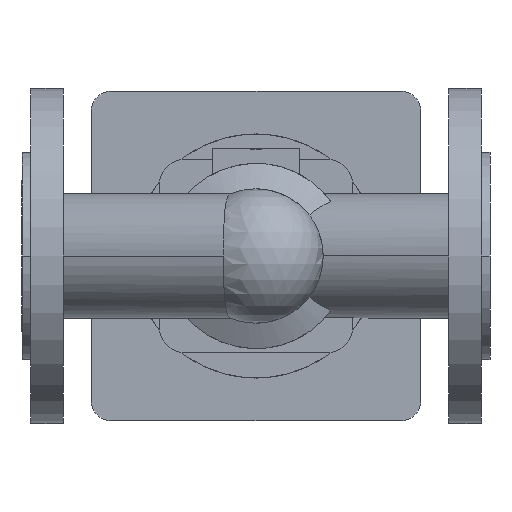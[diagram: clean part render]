
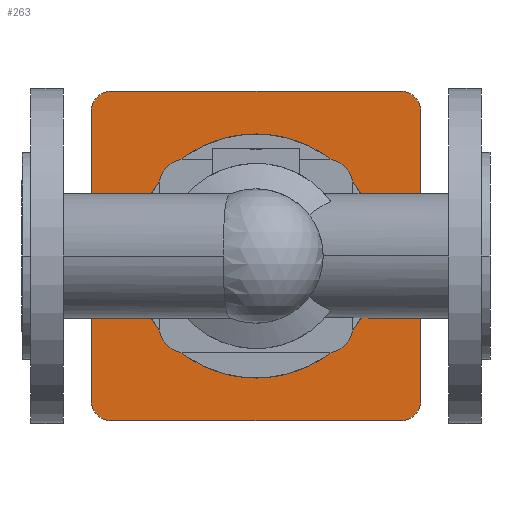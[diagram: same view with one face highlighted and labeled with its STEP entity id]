
A CAD part, front view. The second image highlights one B-rep face of the part: STEP entity #263.
In plain terms, the highlighted planar face has unit normal (0, -1, 0).
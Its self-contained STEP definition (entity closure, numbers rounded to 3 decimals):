
#263 = ADVANCED_FACE( '', ( #603, #604 ), #605, .F. );
#603 = FACE_OUTER_BOUND( '', #969, .T. );
#604 = FACE_BOUND( '', #970, .T. );
#605 = PLANE( '', #971 );
#969 = EDGE_LOOP( '', ( #2116, #2117, #2118, #2119, #2120, #2121, #2122, #2123 ) );
#970 = EDGE_LOOP( '', ( #2124, #2125 ) );
#971 = AXIS2_PLACEMENT_3D( '', #2126, #2127, #2128 );
#2116 = ORIENTED_EDGE( '', *, *, #2645, .F. );
#2117 = ORIENTED_EDGE( '', *, *, #2646, .F. );
#2118 = ORIENTED_EDGE( '', *, *, #2647, .F. );
#2119 = ORIENTED_EDGE( '', *, *, #2648, .F. );
#2120 = ORIENTED_EDGE( '', *, *, #2649, .F. );
#2121 = ORIENTED_EDGE( '', *, *, #2650, .F. );
#2122 = ORIENTED_EDGE( '', *, *, #2651, .F. );
#2123 = ORIENTED_EDGE( '', *, *, #2652, .F. );
#2124 = ORIENTED_EDGE( '', *, *, #2560, .F. );
#2125 = ORIENTED_EDGE( '', *, *, #2653, .F. );
#2126 = CARTESIAN_POINT( '', ( 115., 419., 0. ) );
#2127 = DIRECTION( '', ( 0., 1., 0. ) );
#2128 = DIRECTION( '', ( 0., 0., 1. ) );
#2560 = EDGE_CURVE( '', #3135, #3138, #3139, .T. );
#2645 = EDGE_CURVE( '', #3282, #3283, #3284, .T. );
#2646 = EDGE_CURVE( '', #3285, #3282, #3286, .T. );
#2647 = EDGE_CURVE( '', #3287, #3285, #3288, .T. );
#2648 = EDGE_CURVE( '', #3289, #3287, #3290, .T. );
#2649 = EDGE_CURVE( '', #3291, #3289, #3292, .T. );
#2650 = EDGE_CURVE( '', #3293, #3291, #3294, .T. );
#2651 = EDGE_CURVE( '', #3295, #3293, #3296, .T. );
#2652 = EDGE_CURVE( '', #3283, #3295, #3297, .T. );
#2653 = EDGE_CURVE( '', #3138, #3135, #3298, .T. );
#3135 = VERTEX_POINT( '', #4408 );
#3138 = VERTEX_POINT( '', #4412 );
#3139 = CIRCLE( '', #4413, 40. );
#3282 = VERTEX_POINT( '', #4611 );
#3283 = VERTEX_POINT( '', #4612 );
#3284 = CIRCLE( '', #4613, 10. );
#3285 = VERTEX_POINT( '', #4614 );
#3286 = LINE( '', #4615, #4616 );
#3287 = VERTEX_POINT( '', #4617 );
#3288 = CIRCLE( '', #4618, 10. );
#3289 = VERTEX_POINT( '', #4619 );
#3290 = LINE( '', #4620, #4621 );
#3291 = VERTEX_POINT( '', #4622 );
#3292 = CIRCLE( '', #4623, 10. );
#3293 = VERTEX_POINT( '', #4624 );
#3294 = LINE( '', #4625, #4626 );
#3295 = VERTEX_POINT( '', #4627 );
#3296 = CIRCLE( '', #4628, 10. );
#3297 = LINE( '', #4629, #4630 );
#3298 = CIRCLE( '', #4631, 40. );
#4408 = CARTESIAN_POINT( '', ( 75., 419., 0. ) );
#4412 = CARTESIAN_POINT( '', ( 155., 419., 0. ) );
#4413 = AXIS2_PLACEMENT_3D( '', #5186, #5187, #5188 );
#4611 = CARTESIAN_POINT( '', ( 34., 419., 71. ) );
#4612 = CARTESIAN_POINT( '', ( 44., 419., 81. ) );
#4613 = AXIS2_PLACEMENT_3D( '', #5331, #5332, #5333 );
#4614 = CARTESIAN_POINT( '', ( 34., 419., -71. ) );
#4615 = CARTESIAN_POINT( '', ( 34., 419., -71. ) );
#4616 = VECTOR( '', #5334, 1. );
#4617 = CARTESIAN_POINT( '', ( 44., 419., -81. ) );
#4618 = AXIS2_PLACEMENT_3D( '', #5335, #5336, #5337 );
#4619 = CARTESIAN_POINT( '', ( 186., 419., -81. ) );
#4620 = CARTESIAN_POINT( '', ( 186., 419., -81. ) );
#4621 = VECTOR( '', #5338, 1. );
#4622 = CARTESIAN_POINT( '', ( 196., 419., -71. ) );
#4623 = AXIS2_PLACEMENT_3D( '', #5339, #5340, #5341 );
#4624 = CARTESIAN_POINT( '', ( 196., 419., 71. ) );
#4625 = CARTESIAN_POINT( '', ( 196., 419., 71. ) );
#4626 = VECTOR( '', #5342, 1. );
#4627 = CARTESIAN_POINT( '', ( 186., 419., 81. ) );
#4628 = AXIS2_PLACEMENT_3D( '', #5343, #5344, #5345 );
#4629 = CARTESIAN_POINT( '', ( 44., 419., 81. ) );
#4630 = VECTOR( '', #5346, 1. );
#4631 = AXIS2_PLACEMENT_3D( '', #5347, #5348, #5349 );
#5186 = CARTESIAN_POINT( '', ( 115., 419., 0. ) );
#5187 = DIRECTION( '', ( 0., -1., 0. ) );
#5188 = DIRECTION( '', ( -1., 0., 0. ) );
#5331 = CARTESIAN_POINT( '', ( 44., 419., 71. ) );
#5332 = DIRECTION( '', ( 0., 1., 0. ) );
#5333 = DIRECTION( '', ( -1., 0., 0. ) );
#5334 = DIRECTION( '', ( 0., 0., 1. ) );
#5335 = CARTESIAN_POINT( '', ( 44., 419., -71. ) );
#5336 = DIRECTION( '', ( 0., 1., 0. ) );
#5337 = DIRECTION( '', ( 0., 0., -1. ) );
#5338 = DIRECTION( '', ( -1., 0., 0. ) );
#5339 = CARTESIAN_POINT( '', ( 186., 419., -71. ) );
#5340 = DIRECTION( '', ( 0., 1., 0. ) );
#5341 = DIRECTION( '', ( 1., 0., 0. ) );
#5342 = DIRECTION( '', ( 0., 0., -1. ) );
#5343 = CARTESIAN_POINT( '', ( 186., 419., 71. ) );
#5344 = DIRECTION( '', ( 0., 1., 0. ) );
#5345 = DIRECTION( '', ( 0., 0., 1. ) );
#5346 = DIRECTION( '', ( 1., 0., 0. ) );
#5347 = CARTESIAN_POINT( '', ( 115., 419., 0. ) );
#5348 = DIRECTION( '', ( 0., -1., 0. ) );
#5349 = DIRECTION( '', ( -1., 0., 0. ) );
